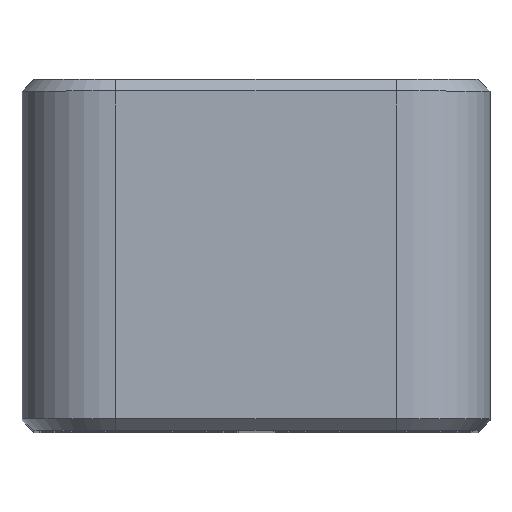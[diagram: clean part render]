
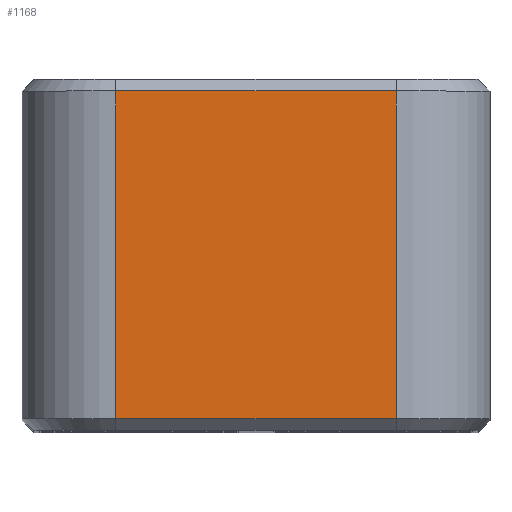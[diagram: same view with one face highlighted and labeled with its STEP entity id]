
A CAD part, top view. The second image highlights one B-rep face of the part: STEP entity #1168.
In plain terms, the highlighted planar face has unit normal (0, 0, 1).
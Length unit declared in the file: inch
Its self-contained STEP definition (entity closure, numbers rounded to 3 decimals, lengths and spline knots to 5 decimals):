
#52=LINE('',#2001,#92);
#59=LINE('',#2022,#99);
#61=LINE('',#2028,#101);
#62=LINE('',#2029,#102);
#92=VECTOR('',#1666,0.6);
#99=VECTOR('',#1691,0.7);
#101=VECTOR('',#1697,0.7);
#102=VECTOR('',#1698,0.6);
#133=PLANE('',#1341);
#296=FACE_OUTER_BOUND('',#466,.T.);
#466=EDGE_LOOP('',(#997,#998,#999,#1000));
#659=VERTEX_POINT('',#1995);
#660=VERTEX_POINT('',#1999);
#665=VERTEX_POINT('',#2021);
#667=VERTEX_POINT('',#2027);
#767=EDGE_CURVE('',#659,#660,#52,.T.);
#777=EDGE_CURVE('',#660,#665,#59,.T.);
#780=EDGE_CURVE('',#667,#659,#61,.T.);
#781=EDGE_CURVE('',#665,#667,#62,.T.);
#997=ORIENTED_EDGE('',*,*,#767,.F.);
#998=ORIENTED_EDGE('',*,*,#780,.F.);
#999=ORIENTED_EDGE('',*,*,#781,.F.);
#1000=ORIENTED_EDGE('',*,*,#777,.F.);
#1168=ADVANCED_FACE('',(#296),#133,.T.);
#1341=AXIS2_PLACEMENT_3D('',#2026,#1695,#1696);
#1666=DIRECTION('',(1.,0.,0.));
#1691=DIRECTION('',(0.,-1.,0.));
#1695=DIRECTION('center_axis',(0.,0.,1.));
#1696=DIRECTION('ref_axis',(1.,0.,0.));
#1697=DIRECTION('',(0.,1.,0.));
#1698=DIRECTION('',(-1.,0.,0.));
#1995=CARTESIAN_POINT('',(-0.3,0.725,1.5));
#1999=CARTESIAN_POINT('',(0.3,0.725,1.5));
#2001=CARTESIAN_POINT('',(-0.25,0.725,1.5));
#2021=CARTESIAN_POINT('',(0.3,0.025,1.5));
#2022=CARTESIAN_POINT('',(0.3,0.,1.5));
#2026=CARTESIAN_POINT('Origin',(-0.5,0.,1.5));
#2027=CARTESIAN_POINT('',(-0.3,0.025,1.5));
#2028=CARTESIAN_POINT('',(-0.3,0.,1.5));
#2029=CARTESIAN_POINT('',(-0.25,0.025,1.5));
